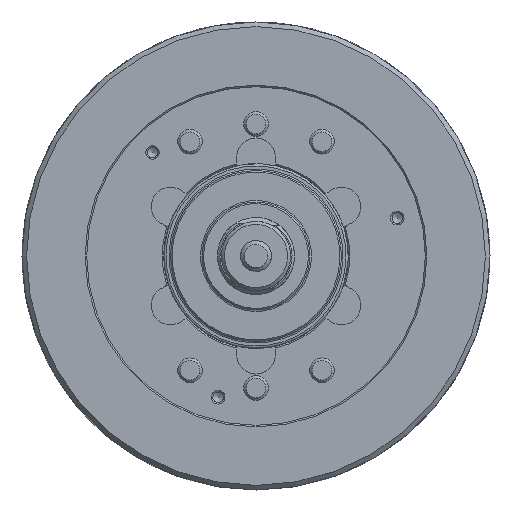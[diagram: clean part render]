
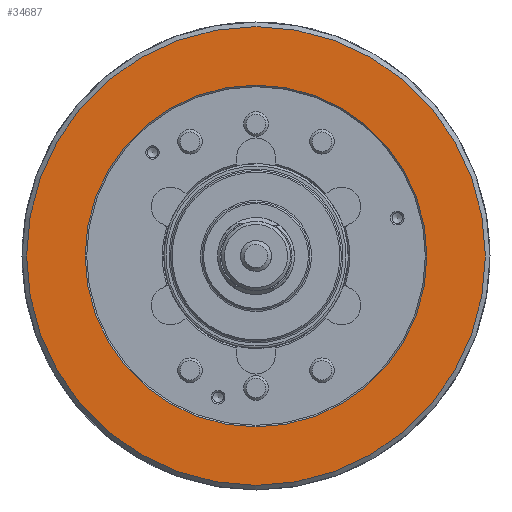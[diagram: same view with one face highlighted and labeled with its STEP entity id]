
A CAD part, left-side view. The second image highlights one B-rep face of the part: STEP entity #34687.
In plain terms, the highlighted planar face has unit normal (-1, 0, 0) as drawn and (0, 0, -1) by its records, which use the part's own axes.
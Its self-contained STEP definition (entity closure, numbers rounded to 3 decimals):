
#5090 = DIRECTION ( 'NONE',  ( 1., 0., 0. ) ) ;
#12817 = FACE_BOUND ( 'NONE', #54620, .T. ) ;
#13052 = FACE_OUTER_BOUND ( 'NONE', #40978, .T. ) ;
#14045 = CARTESIAN_POINT ( 'NONE',  ( 0., 0., -106. ) ) ;
#16410 = VERTEX_POINT ( 'NONE', #30337 ) ;
#18290 = DIRECTION ( 'NONE',  ( 1., 0., 0. ) ) ;
#19816 = CARTESIAN_POINT ( 'NONE',  ( 111., 0., -106. ) ) ;
#20349 = AXIS2_PLACEMENT_3D ( 'NONE', #47141, #30474, #5090 ) ;
#21670 = AXIS2_PLACEMENT_3D ( 'NONE', #49779, #24457, #54058 ) ;
#21761 = ORIENTED_EDGE ( 'NONE', *, *, #21795, .T. ) ;
#21795 = EDGE_CURVE ( 'NONE', #41654, #41654, #51938, .T. ) ;
#22078 = CIRCLE ( 'NONE', #33716, 149. ) ;
#24457 = DIRECTION ( 'NONE',  ( 0., 0., 1. ) ) ;
#26219 = PLANE ( 'NONE',  #20349 ) ;
#30337 = CARTESIAN_POINT ( 'NONE',  ( 149., 0., -106. ) ) ;
#30474 = DIRECTION ( 'NONE',  ( 0., 0., 1. ) ) ;
#32206 = ORIENTED_EDGE ( 'NONE', *, *, #53095, .F. ) ;
#33716 = AXIS2_PLACEMENT_3D ( 'NONE', #14045, #43639, #18290 ) ;
#34687 = ADVANCED_FACE ( 'NONE', ( #13052, #12817 ), #26219, .F. ) ;
#40978 = EDGE_LOOP ( 'NONE', ( #32206 ) ) ;
#41654 = VERTEX_POINT ( 'NONE', #19816 ) ;
#43639 = DIRECTION ( 'NONE',  ( 0., 0., 1. ) ) ;
#47141 = CARTESIAN_POINT ( 'NONE',  ( 0., -111., -106. ) ) ;
#49779 = CARTESIAN_POINT ( 'NONE',  ( 0., 0., -106. ) ) ;
#51938 = CIRCLE ( 'NONE', #21670, 111. ) ;
#53095 = EDGE_CURVE ( 'NONE', #16410, #16410, #22078, .T. ) ;
#54058 = DIRECTION ( 'NONE',  ( 1., 0., 0. ) ) ;
#54620 = EDGE_LOOP ( 'NONE', ( #21761 ) ) ;
